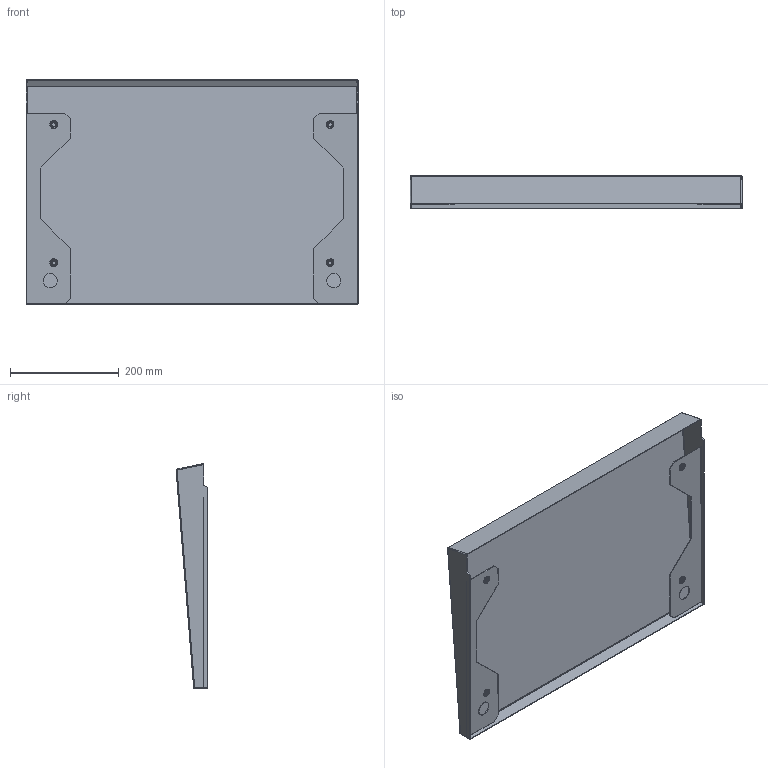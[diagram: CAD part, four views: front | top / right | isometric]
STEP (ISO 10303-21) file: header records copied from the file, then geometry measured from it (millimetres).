
FILE_DESCRIPTION (( 'STEP AP203' ), '1' );
FILE_NAME ('R 60.40 Cﾁ ﾊ鰀靍裲 鈞隆.STEP', '2012-11-21T04:23:34', ( 'system' ), ( '' ), 'SwSTEP 2.0', 'SolidWorks 2012', '' );
FILE_SCHEMA (( 'CONFIG_CONTROL_DESIGN' ));
Length unit declared in the file: millimetre
Products named in the file (1): R 60.40 Cﾁ ﾊ鰀靍裲 鈞隆
Bounding box: 610 x 58.63 x 413.35 mm (x, y, z)
Volume: 510265.8 mm3; surface area: 732961.4 mm2
Topology: 5 solids, 5 shells, 152 faces, 354 edges, 224 vertices
Faces by surface type: cylinder 62, plane 58, torus 16, sphere 8, cone 8
Entity records: 4419 total; most frequent: DIRECTION 824, CARTESIAN_POINT 731, ORIENTED_EDGE 692, EDGE_CURVE 346, AXIS2_PLACEMENT_3D 329, VERTEX_POINT 220, EDGE_LOOP 188, CIRCLE 176
